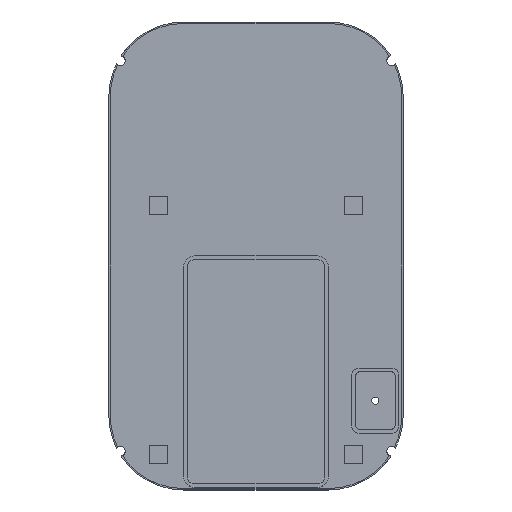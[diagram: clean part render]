
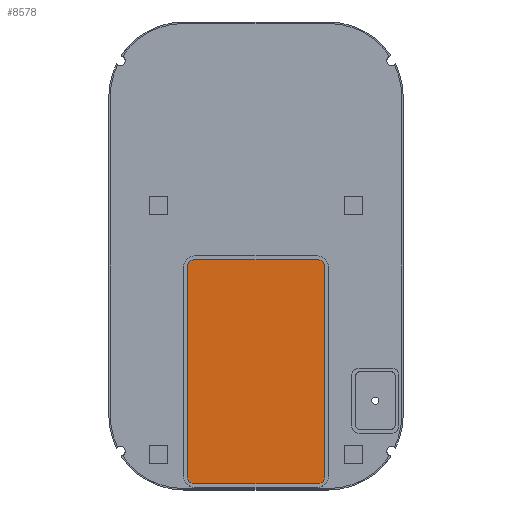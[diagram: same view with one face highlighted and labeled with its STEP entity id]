
A CAD part, top view. The second image highlights one B-rep face of the part: STEP entity #8578.
In plain terms, the highlighted planar face has unit normal (0, 0, 1).
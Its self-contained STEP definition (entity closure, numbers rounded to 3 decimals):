
#7551 = CYLINDRICAL_SURFACE('',#7552,2.);
#7552 = AXIS2_PLACEMENT_3D('',#7553,#7554,#7555);
#7553 = CARTESIAN_POINT('',(-17.,-61.,-11.8));
#7554 = DIRECTION('',(0.,0.,1.));
#7555 = DIRECTION('',(-1.,-0.,0.));
#7578 = PLANE('',#7579);
#7579 = AXIS2_PLACEMENT_3D('',#7580,#7581,#7582);
#7580 = CARTESIAN_POINT('',(-19.,-63.,-11.8));
#7581 = DIRECTION('',(1.,0.,0.));
#7582 = DIRECTION('',(0.,0.,1.));
#7606 = CYLINDRICAL_SURFACE('',#7607,2.);
#7607 = AXIS2_PLACEMENT_3D('',#7608,#7609,#7610);
#7608 = CARTESIAN_POINT('',(-17.,-3.,-11.8));
#7609 = DIRECTION('',(0.,0.,1.));
#7610 = DIRECTION('',(-1.,-0.,0.));
#7633 = PLANE('',#7634);
#7634 = AXIS2_PLACEMENT_3D('',#7635,#7636,#7637);
#7635 = CARTESIAN_POINT('',(-19.,-1.,-11.8));
#7636 = DIRECTION('',(0.,1.,0.));
#7637 = DIRECTION('',(0.,0.,1.));
#7661 = CYLINDRICAL_SURFACE('',#7662,2.);
#7662 = AXIS2_PLACEMENT_3D('',#7663,#7664,#7665);
#7663 = CARTESIAN_POINT('',(17.,-3.,-11.8));
#7664 = DIRECTION('',(0.,0.,1.));
#7665 = DIRECTION('',(1.,0.,-0.));
#7688 = PLANE('',#7689);
#7689 = AXIS2_PLACEMENT_3D('',#7690,#7691,#7692);
#7690 = CARTESIAN_POINT('',(19.,-63.,-11.8));
#7691 = DIRECTION('',(1.,0.,0.));
#7692 = DIRECTION('',(0.,0.,1.));
#7716 = CYLINDRICAL_SURFACE('',#7717,2.);
#7717 = AXIS2_PLACEMENT_3D('',#7718,#7719,#7720);
#7718 = CARTESIAN_POINT('',(17.,-61.,-11.8));
#7719 = DIRECTION('',(0.,0.,1.));
#7720 = DIRECTION('',(1.,0.,-0.));
#7741 = PLANE('',#7742);
#7742 = AXIS2_PLACEMENT_3D('',#7743,#7744,#7745);
#7743 = CARTESIAN_POINT('',(-19.,-63.,-11.8));
#7744 = DIRECTION('',(0.,1.,0.));
#7745 = DIRECTION('',(0.,0.,1.));
#8186 = VERTEX_POINT('',#8187);
#8187 = CARTESIAN_POINT('',(-19.,-61.,-11.6));
#8208 = EDGE_CURVE('',#8186,#8209,#8211,.T.);
#8209 = VERTEX_POINT('',#8210);
#8210 = CARTESIAN_POINT('',(-17.,-63.,-11.6));
#8211 = SURFACE_CURVE('',#8212,(#8217,#8224),.PCURVE_S1.);
#8212 = CIRCLE('',#8213,2.);
#8213 = AXIS2_PLACEMENT_3D('',#8214,#8215,#8216);
#8214 = CARTESIAN_POINT('',(-17.,-61.,-11.6));
#8215 = DIRECTION('',(0.,0.,1.));
#8216 = DIRECTION('',(-1.,-0.,0.));
#8217 = PCURVE('',#7551,#8218);
#8218 = DEFINITIONAL_REPRESENTATION('',(#8219),#8223);
#8219 = LINE('',#8220,#8221);
#8220 = CARTESIAN_POINT('',(0.,0.2));
#8221 = VECTOR('',#8222,1.);
#8222 = DIRECTION('',(1.,0.));
#8223 = ( GEOMETRIC_REPRESENTATION_CONTEXT(2) 
PARAMETRIC_REPRESENTATION_CONTEXT() REPRESENTATION_CONTEXT('2D SPACE',''
  ) );
#8224 = PCURVE('',#8225,#8230);
#8225 = PLANE('',#8226);
#8226 = AXIS2_PLACEMENT_3D('',#8227,#8228,#8229);
#8227 = CARTESIAN_POINT('',(-40.3,-64.3,-11.6));
#8228 = DIRECTION('',(0.,0.,1.));
#8229 = DIRECTION('',(1.,0.,0.));
#8230 = DEFINITIONAL_REPRESENTATION('',(#8231),#8235);
#8231 = CIRCLE('',#8232,2.);
#8232 = AXIS2_PLACEMENT_2D('',#8233,#8234);
#8233 = CARTESIAN_POINT('',(23.3,3.3));
#8234 = DIRECTION('',(-1.,0.));
#8235 = ( GEOMETRIC_REPRESENTATION_CONTEXT(2) 
PARAMETRIC_REPRESENTATION_CONTEXT() REPRESENTATION_CONTEXT('2D SPACE',''
  ) );
#8262 = EDGE_CURVE('',#8263,#8209,#8265,.T.);
#8263 = VERTEX_POINT('',#8264);
#8264 = CARTESIAN_POINT('',(17.,-63.,-11.6));
#8265 = SURFACE_CURVE('',#8266,(#8270,#8276),.PCURVE_S1.);
#8266 = LINE('',#8267,#8268);
#8267 = CARTESIAN_POINT('',(-19.5,-63.,-11.6));
#8268 = VECTOR('',#8269,1.);
#8269 = DIRECTION('',(-1.,0.,0.));
#8270 = PCURVE('',#7741,#8271);
#8271 = DEFINITIONAL_REPRESENTATION('',(#8272),#8275);
#8272 = B_SPLINE_CURVE_WITH_KNOTS('',1,(#8273,#8274),.UNSPECIFIED.,.F.,
  .F.,(2,2),(-36.5,-2.5),.PIECEWISE_BEZIER_KNOTS.);
#8273 = CARTESIAN_POINT('',(0.2,36.));
#8274 = CARTESIAN_POINT('',(0.2,2.));
#8275 = ( GEOMETRIC_REPRESENTATION_CONTEXT(2) 
PARAMETRIC_REPRESENTATION_CONTEXT() REPRESENTATION_CONTEXT('2D SPACE',''
  ) );
#8276 = PCURVE('',#8225,#8277);
#8277 = DEFINITIONAL_REPRESENTATION('',(#8278),#8282);
#8278 = LINE('',#8279,#8280);
#8279 = CARTESIAN_POINT('',(20.8,1.3));
#8280 = VECTOR('',#8281,1.);
#8281 = DIRECTION('',(-1.,0.));
#8282 = ( GEOMETRIC_REPRESENTATION_CONTEXT(2) 
PARAMETRIC_REPRESENTATION_CONTEXT() REPRESENTATION_CONTEXT('2D SPACE',''
  ) );
#8311 = VERTEX_POINT('',#8312);
#8312 = CARTESIAN_POINT('',(19.,-61.,-11.6));
#8333 = EDGE_CURVE('',#8263,#8311,#8334,.T.);
#8334 = SURFACE_CURVE('',#8335,(#8340,#8347),.PCURVE_S1.);
#8335 = CIRCLE('',#8336,2.);
#8336 = AXIS2_PLACEMENT_3D('',#8337,#8338,#8339);
#8337 = CARTESIAN_POINT('',(17.,-61.,-11.6));
#8338 = DIRECTION('',(0.,0.,1.));
#8339 = DIRECTION('',(1.,0.,-0.));
#8340 = PCURVE('',#7716,#8341);
#8341 = DEFINITIONAL_REPRESENTATION('',(#8342),#8346);
#8342 = LINE('',#8343,#8344);
#8343 = CARTESIAN_POINT('',(-6.283,0.2));
#8344 = VECTOR('',#8345,1.);
#8345 = DIRECTION('',(1.,-0.));
#8346 = ( GEOMETRIC_REPRESENTATION_CONTEXT(2) 
PARAMETRIC_REPRESENTATION_CONTEXT() REPRESENTATION_CONTEXT('2D SPACE',''
  ) );
#8347 = PCURVE('',#8225,#8348);
#8348 = DEFINITIONAL_REPRESENTATION('',(#8349),#8353);
#8349 = CIRCLE('',#8350,2.);
#8350 = AXIS2_PLACEMENT_2D('',#8351,#8352);
#8351 = CARTESIAN_POINT('',(57.3,3.3));
#8352 = DIRECTION('',(1.,0.));
#8353 = ( GEOMETRIC_REPRESENTATION_CONTEXT(2) 
PARAMETRIC_REPRESENTATION_CONTEXT() REPRESENTATION_CONTEXT('2D SPACE',''
  ) );
#8362 = EDGE_CURVE('',#8311,#8363,#8365,.T.);
#8363 = VERTEX_POINT('',#8364);
#8364 = CARTESIAN_POINT('',(19.,-3.,-11.6));
#8365 = SURFACE_CURVE('',#8366,(#8370,#8376),.PCURVE_S1.);
#8366 = LINE('',#8367,#8368);
#8367 = CARTESIAN_POINT('',(19.,-63.5,-11.6));
#8368 = VECTOR('',#8369,1.);
#8369 = DIRECTION('',(0.,1.,0.));
#8370 = PCURVE('',#7688,#8371);
#8371 = DEFINITIONAL_REPRESENTATION('',(#8372),#8375);
#8372 = B_SPLINE_CURVE_WITH_KNOTS('',1,(#8373,#8374),.UNSPECIFIED.,.F.,
  .F.,(2,2),(2.5,60.5),.PIECEWISE_BEZIER_KNOTS.);
#8373 = CARTESIAN_POINT('',(0.2,-2.));
#8374 = CARTESIAN_POINT('',(0.2,-60.));
#8375 = ( GEOMETRIC_REPRESENTATION_CONTEXT(2) 
PARAMETRIC_REPRESENTATION_CONTEXT() REPRESENTATION_CONTEXT('2D SPACE',''
  ) );
#8376 = PCURVE('',#8225,#8377);
#8377 = DEFINITIONAL_REPRESENTATION('',(#8378),#8382);
#8378 = LINE('',#8379,#8380);
#8379 = CARTESIAN_POINT('',(59.3,0.8));
#8380 = VECTOR('',#8381,1.);
#8381 = DIRECTION('',(0.,1.));
#8382 = ( GEOMETRIC_REPRESENTATION_CONTEXT(2) 
PARAMETRIC_REPRESENTATION_CONTEXT() REPRESENTATION_CONTEXT('2D SPACE',''
  ) );
#8409 = EDGE_CURVE('',#8363,#8410,#8412,.T.);
#8410 = VERTEX_POINT('',#8411);
#8411 = CARTESIAN_POINT('',(17.,-1.,-11.6));
#8412 = SURFACE_CURVE('',#8413,(#8418,#8425),.PCURVE_S1.);
#8413 = CIRCLE('',#8414,2.);
#8414 = AXIS2_PLACEMENT_3D('',#8415,#8416,#8417);
#8415 = CARTESIAN_POINT('',(17.,-3.,-11.6));
#8416 = DIRECTION('',(0.,0.,1.));
#8417 = DIRECTION('',(1.,0.,-0.));
#8418 = PCURVE('',#7661,#8419);
#8419 = DEFINITIONAL_REPRESENTATION('',(#8420),#8424);
#8420 = LINE('',#8421,#8422);
#8421 = CARTESIAN_POINT('',(0.,0.2));
#8422 = VECTOR('',#8423,1.);
#8423 = DIRECTION('',(1.,0.));
#8424 = ( GEOMETRIC_REPRESENTATION_CONTEXT(2) 
PARAMETRIC_REPRESENTATION_CONTEXT() REPRESENTATION_CONTEXT('2D SPACE',''
  ) );
#8425 = PCURVE('',#8225,#8426);
#8426 = DEFINITIONAL_REPRESENTATION('',(#8427),#8431);
#8427 = CIRCLE('',#8428,2.);
#8428 = AXIS2_PLACEMENT_2D('',#8429,#8430);
#8429 = CARTESIAN_POINT('',(57.3,61.3));
#8430 = DIRECTION('',(1.,0.));
#8431 = ( GEOMETRIC_REPRESENTATION_CONTEXT(2) 
PARAMETRIC_REPRESENTATION_CONTEXT() REPRESENTATION_CONTEXT('2D SPACE',''
  ) );
#8458 = EDGE_CURVE('',#8410,#8459,#8461,.T.);
#8459 = VERTEX_POINT('',#8460);
#8460 = CARTESIAN_POINT('',(-17.,-1.,-11.6));
#8461 = SURFACE_CURVE('',#8462,(#8466,#8472),.PCURVE_S1.);
#8462 = LINE('',#8463,#8464);
#8463 = CARTESIAN_POINT('',(-19.5,-1.,-11.6));
#8464 = VECTOR('',#8465,1.);
#8465 = DIRECTION('',(-1.,0.,0.));
#8466 = PCURVE('',#7633,#8467);
#8467 = DEFINITIONAL_REPRESENTATION('',(#8468),#8471);
#8468 = B_SPLINE_CURVE_WITH_KNOTS('',1,(#8469,#8470),.UNSPECIFIED.,.F.,
  .F.,(2,2),(-36.5,-2.5),.PIECEWISE_BEZIER_KNOTS.);
#8469 = CARTESIAN_POINT('',(0.2,36.));
#8470 = CARTESIAN_POINT('',(0.2,2.));
#8471 = ( GEOMETRIC_REPRESENTATION_CONTEXT(2) 
PARAMETRIC_REPRESENTATION_CONTEXT() REPRESENTATION_CONTEXT('2D SPACE',''
  ) );
#8472 = PCURVE('',#8225,#8473);
#8473 = DEFINITIONAL_REPRESENTATION('',(#8474),#8478);
#8474 = LINE('',#8475,#8476);
#8475 = CARTESIAN_POINT('',(20.8,63.3));
#8476 = VECTOR('',#8477,1.);
#8477 = DIRECTION('',(-1.,0.));
#8478 = ( GEOMETRIC_REPRESENTATION_CONTEXT(2) 
PARAMETRIC_REPRESENTATION_CONTEXT() REPRESENTATION_CONTEXT('2D SPACE',''
  ) );
#8507 = VERTEX_POINT('',#8508);
#8508 = CARTESIAN_POINT('',(-19.,-3.,-11.6));
#8529 = EDGE_CURVE('',#8459,#8507,#8530,.T.);
#8530 = SURFACE_CURVE('',#8531,(#8536,#8543),.PCURVE_S1.);
#8531 = CIRCLE('',#8532,2.);
#8532 = AXIS2_PLACEMENT_3D('',#8533,#8534,#8535);
#8533 = CARTESIAN_POINT('',(-17.,-3.,-11.6));
#8534 = DIRECTION('',(0.,0.,1.));
#8535 = DIRECTION('',(-1.,-0.,0.));
#8536 = PCURVE('',#7606,#8537);
#8537 = DEFINITIONAL_REPRESENTATION('',(#8538),#8542);
#8538 = LINE('',#8539,#8540);
#8539 = CARTESIAN_POINT('',(-6.283,0.2));
#8540 = VECTOR('',#8541,1.);
#8541 = DIRECTION('',(1.,-0.));
#8542 = ( GEOMETRIC_REPRESENTATION_CONTEXT(2) 
PARAMETRIC_REPRESENTATION_CONTEXT() REPRESENTATION_CONTEXT('2D SPACE',''
  ) );
#8543 = PCURVE('',#8225,#8544);
#8544 = DEFINITIONAL_REPRESENTATION('',(#8545),#8549);
#8545 = CIRCLE('',#8546,2.);
#8546 = AXIS2_PLACEMENT_2D('',#8547,#8548);
#8547 = CARTESIAN_POINT('',(23.3,61.3));
#8548 = DIRECTION('',(-1.,0.));
#8549 = ( GEOMETRIC_REPRESENTATION_CONTEXT(2) 
PARAMETRIC_REPRESENTATION_CONTEXT() REPRESENTATION_CONTEXT('2D SPACE',''
  ) );
#8558 = EDGE_CURVE('',#8186,#8507,#8559,.T.);
#8559 = SURFACE_CURVE('',#8560,(#8564,#8570),.PCURVE_S1.);
#8560 = LINE('',#8561,#8562);
#8561 = CARTESIAN_POINT('',(-19.,-63.5,-11.6));
#8562 = VECTOR('',#8563,1.);
#8563 = DIRECTION('',(0.,1.,0.));
#8564 = PCURVE('',#7578,#8565);
#8565 = DEFINITIONAL_REPRESENTATION('',(#8566),#8569);
#8566 = B_SPLINE_CURVE_WITH_KNOTS('',1,(#8567,#8568),.UNSPECIFIED.,.F.,
  .F.,(2,2),(2.5,60.5),.PIECEWISE_BEZIER_KNOTS.);
#8567 = CARTESIAN_POINT('',(0.2,-2.));
#8568 = CARTESIAN_POINT('',(0.2,-60.));
#8569 = ( GEOMETRIC_REPRESENTATION_CONTEXT(2) 
PARAMETRIC_REPRESENTATION_CONTEXT() REPRESENTATION_CONTEXT('2D SPACE',''
  ) );
#8570 = PCURVE('',#8225,#8571);
#8571 = DEFINITIONAL_REPRESENTATION('',(#8572),#8576);
#8572 = LINE('',#8573,#8574);
#8573 = CARTESIAN_POINT('',(21.3,0.8));
#8574 = VECTOR('',#8575,1.);
#8575 = DIRECTION('',(0.,1.));
#8576 = ( GEOMETRIC_REPRESENTATION_CONTEXT(2) 
PARAMETRIC_REPRESENTATION_CONTEXT() REPRESENTATION_CONTEXT('2D SPACE',''
  ) );
#8578 = ADVANCED_FACE('',(#8579),#8225,.T.);
#8579 = FACE_BOUND('',#8580,.T.);
#8580 = EDGE_LOOP('',(#8581,#8582,#8583,#8584,#8585,#8586,#8587,#8588));
#8581 = ORIENTED_EDGE('',*,*,#8558,.F.);
#8582 = ORIENTED_EDGE('',*,*,#8208,.T.);
#8583 = ORIENTED_EDGE('',*,*,#8262,.F.);
#8584 = ORIENTED_EDGE('',*,*,#8333,.T.);
#8585 = ORIENTED_EDGE('',*,*,#8362,.T.);
#8586 = ORIENTED_EDGE('',*,*,#8409,.T.);
#8587 = ORIENTED_EDGE('',*,*,#8458,.T.);
#8588 = ORIENTED_EDGE('',*,*,#8529,.T.);
